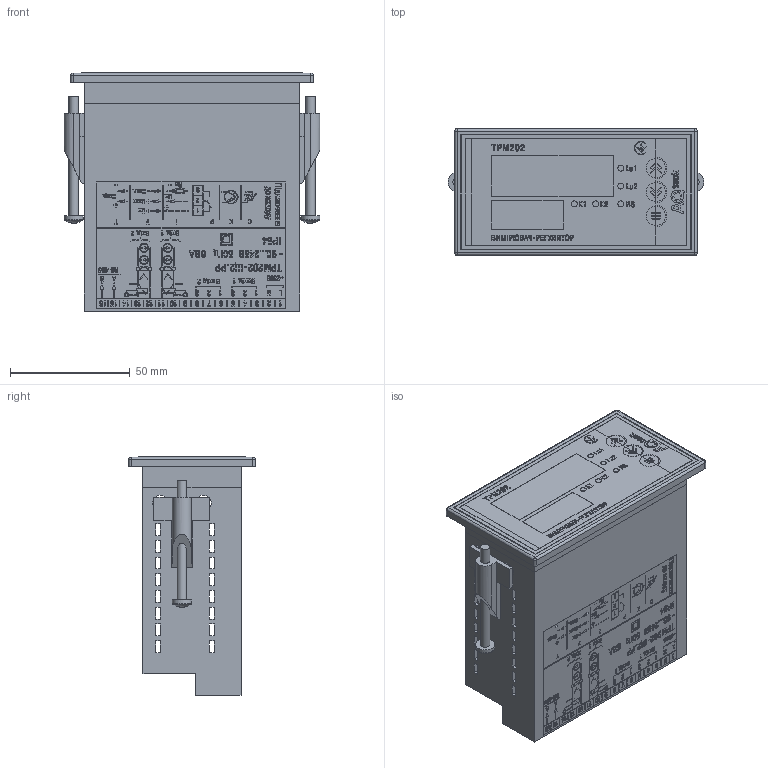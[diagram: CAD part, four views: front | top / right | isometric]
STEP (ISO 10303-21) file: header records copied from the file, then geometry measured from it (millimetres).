
FILE_DESCRIPTION (( 'STEP AP214' ), '1' );
FILE_NAME ('ﾒﾐﾌ202-ﾙ2.ﾐﾐ [U03].STEP', '2025-02-27T10:24:52', ( '' ), ( '' ), 'SwSTEP 2.0', 'SolidWorks 2019', '' );
FILE_SCHEMA (( 'AUTOMOTIVE_DESIGN' ));
Length unit declared in the file: millimetre
Products named in the file (9): Êîðïóñ ÒÐÌ202-Ù2.ÐÐ [U03]; ﾒﾐﾌ202-ﾙ2.ﾐﾐ [U03]; BoardsPCBﾒﾐﾌ500_ﾙ2; óù³ëüíþâà÷ (Ù2); 2EDGKR-5.08-1p; Êð³ïëåííÿ ï³ä âèíò Ì4; AQ_TRM202_002F01M; 2EDGKR-5.08-16; M4 x 0.7 x 40 Type I Cross Recessed PHMS
Assembly tree (25 placements, depth 3):
  ﾒﾐﾌ202-ﾙ2.ﾐﾐ [U03]
    2EDGKR-5.08-16
      2EDGKR-5.08-1p  x16
    óù³ëüíþâà÷ (Ù2)
    Êîðïóñ ÒÐÌ202-Ù2.ÐÐ [U03]
    Êð³ïëåííÿ ï³ä âèíò Ì4  x2
    M4 x 0.7 x 40 Type I Cross Recessed PHMS  x2
    AQ_TRM202_002F01M
    BoardsPCBﾒﾐﾌ500_ﾙ2
Bounding box: 107 x 53 x 99.63 mm (x, y, z)
Volume: 93971.4 mm3; surface area: 128431.8 mm2
Topology: 293 solids, 293 shells, 5624 faces, 14913 edges, 9894 vertices
Faces by surface type: plane 3942, bspline 1384, cylinder 290, sphere 6, torus 2
Full cylindrical faces by diameter (mm): 1.274 x2, 2.5 x10, 3.268 x4, 4 x2, 8 x5
Entity records: 205478 total; most frequent: CARTESIAN_POINT 44751, ORIENTED_EDGE 26042, DIRECTION 17576, EDGE_CURVE 13021, LINE 9980, VECTOR 9980, VERTEX_POINT 8685, EDGE_LOOP 5470
